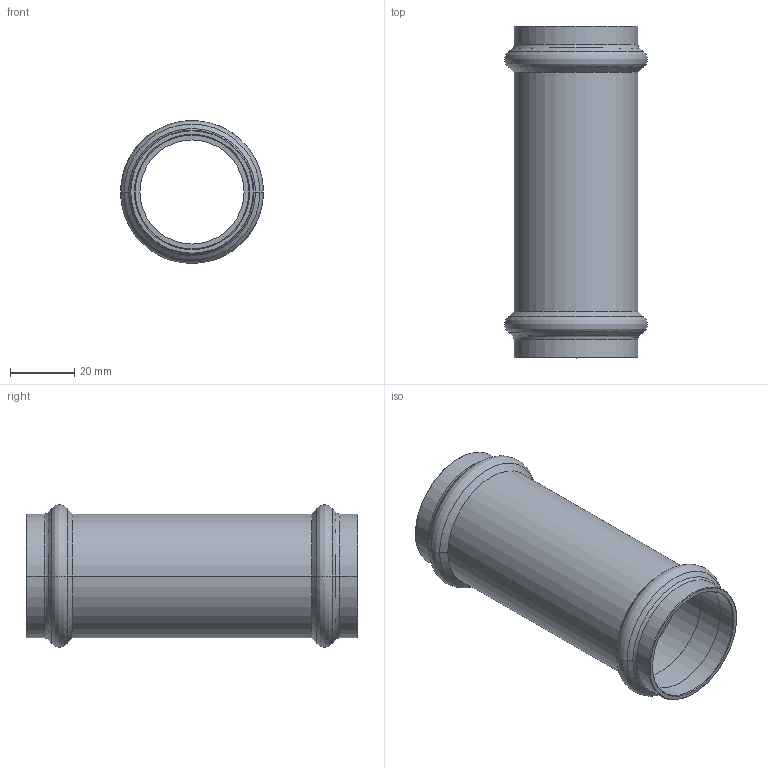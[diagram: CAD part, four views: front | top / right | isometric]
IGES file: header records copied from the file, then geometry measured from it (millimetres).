
Start section: Elysium IGES Interface
Global section: file name: C:\Users\Wallenburg\Desktop\3d modellen sudo\S-Pr VP\SP6275V\6275VW35.igs; native system: CoCreate Modeling 17.00A  17-Jun-2010; preprocessor: CoCreate IGES_3D V2.2; author: Unknown; organization: Unknown; date: 20130110.144044; units: millimetre
Bounding box: 44.3 x 103 x 44.27 mm (x, y, z)
Volume: 22410.7 mm3; surface area: 25512.4 mm2
Topology: 1 solids, 1 shells, 58 faces, 120 edges, 68 vertices
Faces by surface type: bspline 58
